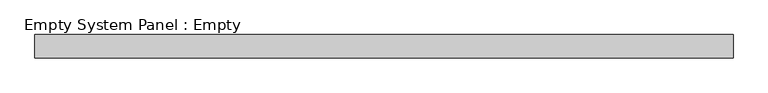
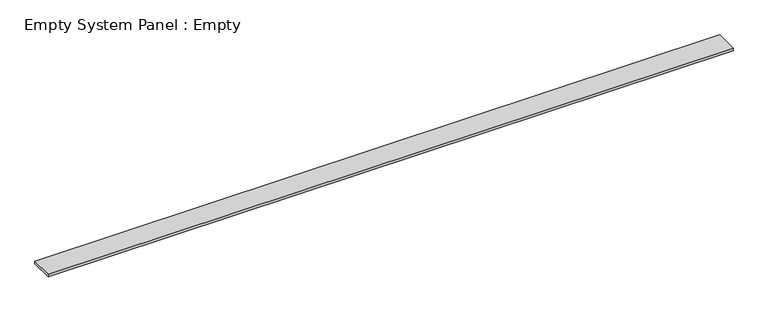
"""IFC4 building model written with IfcOpenShell, lengths in millimetres: plate geometry, Empty System Panel : Empty."""

from ifc_helpers import new_model, si_unit, origin, origin_with_axes, place, context, project, spatial, polyline, outline, extrude, source, transform, mapped, element, save


def empty_system_panel_empty_2a0ac37f(model_context):
    return source(origin(), model_context, "Body", "SweptSolid", [
        extrude(outline(polyline([(1500.0, 50.0), (-1500.0, 50.0), (-1500.0, 150.0), (1500.0, 150.0), (1500.0, 50.0)])), origin_with_axes(), (0.0, 0.0, 1.0), 11.8397411),
    ])


if __name__ == "__main__":
    model = new_model("IFC4")
    model_context = context("Model", 3, world=origin())
    ifc_project = project(units=[si_unit("LENGTHUNIT", "METRE", prefix="MILLI")], contexts=[model_context])
    site = spatial("IfcSite", under=ifc_project)
    building = spatial("IfcBuilding", under=site)
    placement = place(None, origin())
    empty_system_panel_empty_shape = empty_system_panel_empty_2a0ac37f(model_context)
    element("IfcPlate", 1, ObjectType="Empty System Panel : Empty", at=placement, inside=building, context=model_context, shape_type="MappedRepresentation", body=[
        mapped(empty_system_panel_empty_shape, transform((0.0, 0.0, 0.0), x_axis=(1.0, 0.0, 0.0), y_axis=(0.0, 1.0, 0.0), z_axis=(0.0, 0.0, 1.0))),
    ])
    save(model, "model.ifc")
